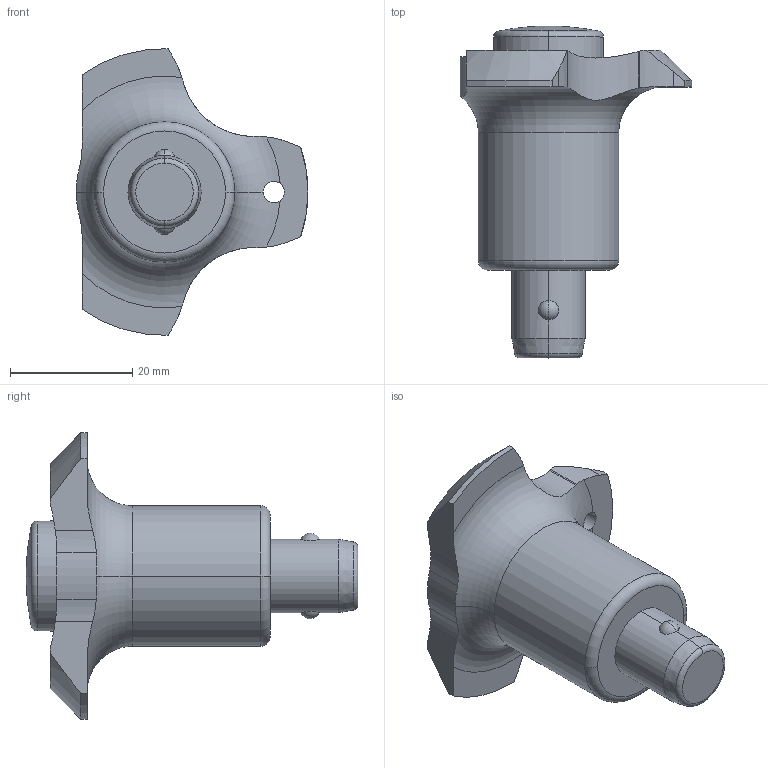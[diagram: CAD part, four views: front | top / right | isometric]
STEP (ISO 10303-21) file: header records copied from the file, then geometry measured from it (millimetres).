
FILE_DESCRIPTION (( 'STEP AP203' ), '1' );
FILE_NAME ('33180.W0040.step', '2025-01-06T11:15:20', ( '' ), ( '' ), 'SwSTEP 2.0', 'SolidWorks 2019', '' );
FILE_SCHEMA (( 'CONFIG_CONTROL_DESIGN' ));
Length unit declared in the file: millimetre
Products named in the file (4): Part2_33180.W0040; Part1_33180.W0040; Part3_33180.W0040; 33180.W0040
Assembly tree (3 placements, depth 2):
  33180.W0040
    Part1_33180.W0040
    Part2_33180.W0040
    Part3_33180.W0040
Bounding box: 38 x 54.4 x 46.99 mm (x, y, z)
Volume: 18039.1 mm3; surface area: 9530.3 mm2
Topology: 3 solids, 3 shells, 68 faces, 177 edges, 113 vertices
Faces by surface type: cylinder 26, plane 20, torus 8, sphere 8, cone 6
Entity records: 2833 total; most frequent: CARTESIAN_POINT 752, DIRECTION 369, ORIENTED_EDGE 354, EDGE_CURVE 177, AXIS2_PLACEMENT_3D 160, VERTEX_POINT 113, CIRCLE 86, EDGE_LOOP 70
